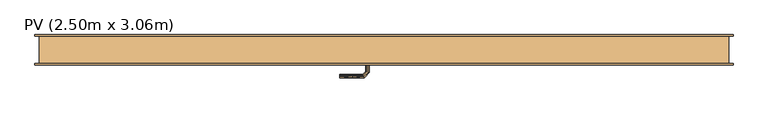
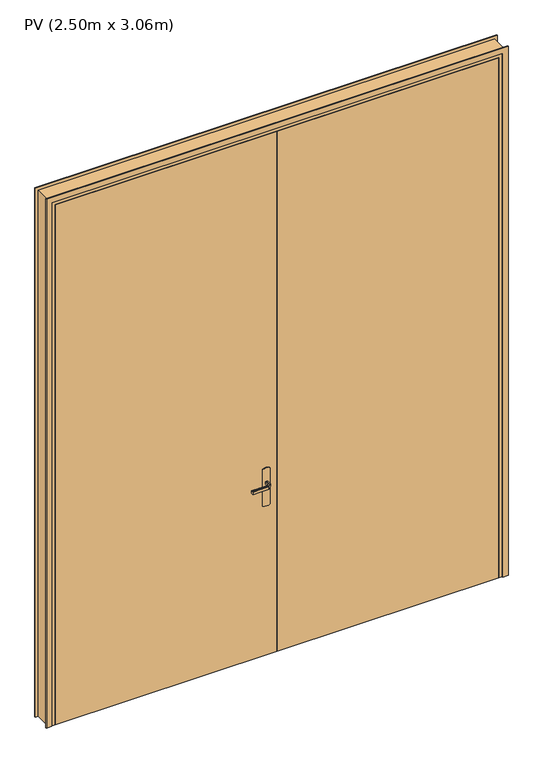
"""IFC4 building model written with IfcOpenShell, lengths in millimetres: door geometry, PV (2.50m x 3.06m)."""

from ifc_helpers import new_model, si_unit, frame, origin, origin_with_axes, place, context, project, spatial, polyline, outline, extrude, faceted_brep, source, transform, mapped, element, save


def pv_2_50m_x_3_06m_7b13cd18(model_context):
    return source(origin(), model_context, "Body", "SolidModel", [
        extrude(outline(polyline([(870.0, 1280.0), (1080.0, 1280.0), (1083.9960169, 1270.3527618), (1085.3589838, 1260.0), (1083.9960169, 1249.6472382), (1080.0, 1240.0), (870.0, 1240.0), (866.0039831, 1249.6472382), (864.6410162, 1260.0), (866.0039831, 1270.3527618), (870.0, 1280.0)])), frame((0.0, -5.0, 0.0), z_axis=(0.0, 1.0, 0.0), x_axis=(0.0, 0.0, 1.0)), (0.0, 0.0, 1.0), 5.0),
        extrude(outline(polyline([(0.0, 2585.0), (3060.0, 2585.0), (3060.0, 55.0), (0.0, 55.0), (0.0, 85.0), (3030.0, 85.0), (3030.0, 2555.0), (0.0, 2555.0), (0.0, 2585.0)])), frame((0.0, -5.0, 0.0), z_axis=(0.0, 1.0, 0.0), x_axis=(0.0, 0.0, 1.0)), (0.0, 0.0, 1.0), 5.0),
        extrude(outline(polyline([(1320.0, 40.0), (2535.0, 40.0), (2535.0, 0.0), (1320.0, 0.0), (1320.0, 40.0)])), origin_with_axes(), (0.0, 0.0, 1.0), 3010.0),
        faceted_brep([(1257.9747013, -5.0, 1007.7804408), (1262.0252987, -5.0, 1007.7804408), (1266.0, -5.0, 1007.0), (1266.0, -5.0, 993.0), (1262.0252987, -5.0, 992.2195592), (1257.9747013, -5.0, 992.2195592), (1254.0, -5.0, 993.0), (1254.0, -5.0, 1007.0), (1262.0252987, -31.0045755, 1007.7804408), (1266.0, -32.6509507, 1007.0), (1257.9747013, -29.3267632, 1007.7804408), (1244.2986025, -43.002862, 1007.7804408), (1245.9764148, -47.0534593, 1007.7804408), (1254.0, -27.680388, 1007.0), (1254.0, -27.680388, 993.0), (1257.9747013, -29.3267632, 992.2195592), (1262.0252987, -31.0045755, 992.2195592), (1245.9764148, -47.0534593, 992.2195592), (1244.2986025, -43.002862, 992.2195592), (1266.0, -32.6509507, 993.0), (1247.62279, -51.0281607, 1007.0), (1242.6522273, -39.0281607, 1007.0), (1242.6522273, -39.0281607, 993.0), (1247.62279, -51.0281607, 993.0), (1159.9813594, -51.0281607, 1007.0), (1159.9813594, -47.0534593, 1007.7804408), (1159.9813594, -43.002862, 1007.7804408), (1159.9813594, -39.0281607, 1007.0), (1159.9813594, -39.0281607, 993.0), (1159.9813594, -43.002862, 992.2195592), (1159.9813594, -47.0534593, 992.2195592), (1159.9813594, -51.0281607, 993.0), (1202.1399809, -45.0281607, 1007.8786868), (1207.6923028, -51.0281607, 1007.0), (1201.3167933, -39.0281607, 1007.0), (1201.3167933, -39.0281607, 993.0), (1202.1399811, -45.0281608, 992.1213132), (1207.6923104, -51.0281607, 993.0)], [[[0, 1, 2, 3, 4, 5, 6, 7]], [[2, 1, 8, 9]], [[1, 0, 10, 11, 12, 8]], [[0, 7, 13, 10]], [[14, 13, 7, 6]], [[5, 15, 14, 6]], [[5, 4, 16, 17, 18, 15]], [[3, 19, 16, 4]], [[9, 19, 3, 2]], [[9, 8, 12, 20]], [[10, 13, 21, 11]], [[22, 21, 13, 14]], [[14, 15, 18, 22]], [[16, 19, 23, 17]], [[20, 23, 19, 9]], [[24, 25, 26, 27, 28, 29, 30, 31]], [[32, 25, 33]], [[33, 25, 24]], [[33, 20, 12]], [[11, 34, 32]], [[34, 11, 21]], [[27, 26, 34]], [[32, 26, 25]], [[32, 34, 26]], [[32, 33, 12]], [[11, 32, 12]], [[21, 22, 35, 28, 27, 34]], [[36, 29, 35]], [[30, 36, 37]], [[18, 35, 22]], [[29, 28, 35]], [[30, 37, 31]], [[37, 17, 23]], [[36, 17, 37]], [[36, 18, 17]], [[36, 35, 18]], [[29, 36, 30]], [[23, 20, 33, 24, 31, 37]]]),
        faceted_brep([(1257.9747013, 45.0, 992.2195592), (1262.0252987, 45.0, 992.2195592), (1266.0, 45.0, 993.0), (1266.0, 45.0, 1007.0), (1262.0252987, 45.0, 1007.7804408), (1257.9747013, 45.0, 1007.7804408), (1254.0, 45.0, 1007.0), (1254.0, 45.0, 993.0), (1254.0, 67.4852045, 1007.0), (1254.0, 67.4852045, 993.0), (1257.9747013, 69.1315797, 1007.7804408), (1262.0252987, 70.8093921, 1007.7804408), (1245.8389062, 86.9957845, 1007.7804408), (1244.1610938, 82.9451872, 1007.7804408), (1266.0, 72.4557673, 1007.0), (1266.0, 72.4557673, 993.0), (1262.0252987, 70.8093921, 992.2195592), (1257.9747013, 69.1315797, 992.2195592), (1244.1610938, 82.9451872, 992.2195592), (1245.8389062, 86.9957845, 992.2195592), (1242.5147186, 78.9704859, 1007.0), (1242.5147186, 78.9704859, 993.0), (1247.4852814, 90.9704859, 1007.0), (1247.4852814, 90.9704859, 993.0), (1159.9542163, 82.9451872, 1007.7804408), (1159.9542163, 86.9957845, 1007.7804408), (1159.9542163, 90.9704859, 1007.0), (1159.9542163, 90.9704859, 993.0), (1159.9542163, 86.9957845, 992.2195592), (1159.9542163, 82.9451872, 992.2195592), (1159.9542163, 78.9704859, 993.0), (1159.9542163, 78.9704859, 1007.0), (1201.2344675, 78.9704859, 1007.0), (1201.2344794, 78.9704859, 993.0), (1202.0576551, 84.9704859, 1007.8786868), (1207.5547942, 90.9704859, 1007.0), (1207.5547957, 90.9704859, 993.0), (1202.0576549, 84.9704858, 992.1213132)], [[[0, 1, 2, 3, 4, 5, 6, 7]], [[8, 9, 7, 6]], [[5, 10, 8, 6]], [[5, 4, 11, 12, 13, 10]], [[3, 14, 11, 4]], [[14, 3, 2, 15]], [[2, 1, 16, 15]], [[1, 0, 17, 18, 19, 16]], [[0, 7, 9, 17]], [[20, 21, 9, 8]], [[8, 10, 13, 20]], [[14, 22, 12, 11]], [[23, 22, 14, 15]], [[15, 16, 19, 23]], [[17, 9, 21, 18]], [[24, 25, 26, 27, 28, 29, 30, 31]], [[21, 20, 32, 31, 30, 33]], [[34, 24, 32]], [[25, 34, 35]], [[13, 32, 20]], [[24, 31, 32]], [[25, 35, 26]], [[35, 12, 22]], [[34, 12, 35]], [[34, 13, 12]], [[34, 32, 13]], [[24, 34, 25]], [[22, 23, 36, 27, 26, 35]], [[37, 28, 36]], [[36, 28, 27]], [[36, 23, 19]], [[18, 33, 37]], [[33, 18, 21]], [[30, 29, 33]], [[37, 29, 28]], [[37, 33, 29]], [[37, 36, 19]], [[18, 37, 19]]]),
        extrude(outline(polyline([(870.0, 1280.0), (1080.0, 1280.0), (1083.9960169, 1270.3527618), (1085.3589838, 1260.0), (1083.9960169, 1249.6472382), (1080.0, 1240.0), (870.0, 1240.0), (866.0039831, 1249.6472382), (864.6410162, 1260.0), (866.0039831, 1270.3527618), (870.0, 1280.0)])), frame((0.0, 40.0, 0.0), z_axis=(0.0, 1.0, 0.0), x_axis=(0.0, 0.0, 1.0)), (0.0, 0.0, 1.0), 5.0),
        extrude(outline(polyline([(0.0, 2585.0), (3060.0, 2585.0), (3060.0, 55.0), (0.0, 55.0), (0.0, 85.0), (3030.0, 85.0), (3030.0, 2555.0), (0.0, 2555.0), (0.0, 2585.0)])), frame((0.0, 100.0, 0.0), z_axis=(0.0, 1.0, 0.0), x_axis=(0.0, 0.0, 1.0)), (0.0, 0.0, 1.0), 5.0),
        extrude(outline(polyline([(1320.0, 40.0), (1320.0, 0.0), (105.0, 0.0), (105.0, 40.0), (1320.0, 40.0)])), origin_with_axes(), (0.0, 0.0, 1.0), 3010.0),
        faceted_brep([(2570.0, 0.0, 0.0), (2535.0, 0.0, 0.0), (2535.0, 40.0, 0.0), (2520.0, 40.0, 0.0), (2520.0, 100.0, 0.0), (2570.0, 100.0, 0.0), (2570.0, 100.0, 3045.0), (2570.0, 0.0, 3045.0), (2520.0, 100.0, 2995.0), (120.0, 100.0, 2995.0), (120.0, 100.0, 0.0), (70.0, 100.0, 0.0), (70.0, 100.0, 3045.0), (2520.0, 40.0, 2995.0), (2535.0, 40.0, 3010.0), (105.0, 40.0, 3010.0), (105.0, 40.0, 0.0), (120.0, 40.0, 0.0), (120.0, 40.0, 2995.0), (2535.0, 0.0, 3010.0), (70.0, 0.0, 3045.0), (70.0, 0.0, 0.0), (105.0, 0.0, 0.0), (105.0, 0.0, 3010.0)], [[[0, 1, 2, 3, 4, 5]], [[5, 6, 7, 0]], [[4, 8, 9, 10, 11, 12, 6, 5]], [[3, 13, 8, 4]], [[2, 14, 15, 16, 17, 18, 13, 3]], [[1, 19, 14, 2]], [[0, 7, 20, 21, 22, 23, 19, 1]], [[12, 11, 21, 20]], [[21, 11, 10, 17, 16, 22]], [[18, 17, 10, 9]], [[23, 22, 16, 15]], [[6, 12, 20, 7]], [[13, 18, 9, 8]], [[19, 23, 15, 14]]]),
    ])


if __name__ == "__main__":
    model = new_model("IFC4")
    model_context = context("Model", 3, world=origin())
    ifc_project = project(units=[si_unit("LENGTHUNIT", "METRE", prefix="MILLI")], contexts=[model_context])
    site = spatial("IfcSite", under=ifc_project)
    building = spatial("IfcBuilding", under=site)
    placement = place(None, origin())
    pv_2_50m_x_3_06m_shape = pv_2_50m_x_3_06m_7b13cd18(model_context)
    element("IfcDoor", 1, ObjectType="PV (2.50m x 3.06m)", at=placement, inside=building, context=model_context, shape_type="MappedRepresentation", body=[
        mapped(pv_2_50m_x_3_06m_shape, transform((0.0, 0.0, 0.0), x_axis=(1.0, 0.0, 0.0), y_axis=(0.0, 1.0, 0.0), z_axis=(0.0, 0.0, 1.0))),
    ])
    save(model, "model.ifc")
